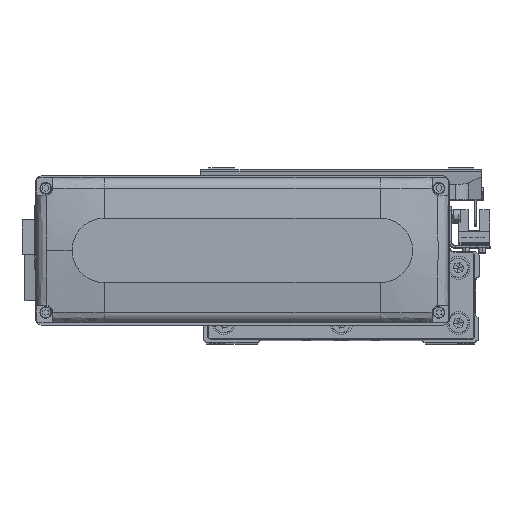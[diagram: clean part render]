
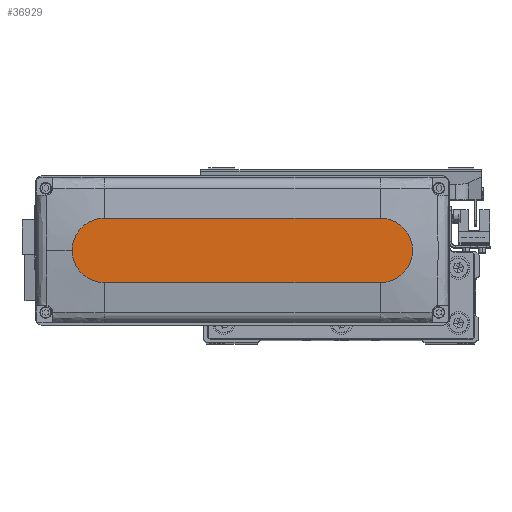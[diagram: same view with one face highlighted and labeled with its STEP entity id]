
A CAD part, top view. The second image highlights one B-rep face of the part: STEP entity #36929.
In plain terms, the highlighted planar face has unit normal (0, 0, 1).
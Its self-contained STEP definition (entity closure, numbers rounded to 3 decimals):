
#699 = LINE ( 'NONE', #13705, #32941 ) ;
#3783 = CARTESIAN_POINT ( 'NONE',  ( -60., -14., 28.5 ) ) ;
#5312 = CARTESIAN_POINT ( 'NONE',  ( -60., -14., 28.5 ) ) ;
#5567 = ORIENTED_EDGE ( 'NONE', *, *, #9362, .T. ) ;
#5639 = EDGE_CURVE ( 'NONE', #14345, #30469, #39063, .T. ) ;
#6544 = DIRECTION ( 'NONE',  ( 0., 0., 1. ) ) ;
#7034 = DIRECTION ( 'NONE',  ( 0., 0., 1. ) ) ;
#7301 = DIRECTION ( 'NONE',  ( 1., 0., 0. ) ) ;
#7545 = CARTESIAN_POINT ( 'NONE',  ( 60., -14., 28.5 ) ) ;
#8756 = ORIENTED_EDGE ( 'NONE', *, *, #5639, .T. ) ;
#9362 = EDGE_CURVE ( 'NONE', #23410, #15448, #35819, .T. ) ;
#9949 = VERTEX_POINT ( 'NONE', #7545 ) ;
#10127 = CARTESIAN_POINT ( 'NONE',  ( 60., 0., 28.5 ) ) ;
#10497 = PLANE ( 'NONE',  #40130 ) ;
#12079 = EDGE_CURVE ( 'NONE', #9949, #14345, #40546, .T. ) ;
#12794 = VECTOR ( 'NONE', #16802, 1000. ) ;
#13705 = CARTESIAN_POINT ( 'NONE',  ( -60., 14., 28.5 ) ) ;
#14345 = VERTEX_POINT ( 'NONE', #19390 ) ;
#15448 = VERTEX_POINT ( 'NONE', #5312 ) ;
#16802 = DIRECTION ( 'NONE',  ( 1., 0., 0. ) ) ;
#16963 = CARTESIAN_POINT ( 'NONE',  ( -60., 14., 28.5 ) ) ;
#17332 = AXIS2_PLACEMENT_3D ( 'NONE', #25992, #6544, #19575 ) ;
#18406 = EDGE_LOOP ( 'NONE', ( #27307, #5567, #25897, #21341, #8756 ) ) ;
#19390 = CARTESIAN_POINT ( 'NONE',  ( 74., 0., 28.5 ) ) ;
#19575 = DIRECTION ( 'NONE',  ( 1., 0., 0. ) ) ;
#20064 = DIRECTION ( 'NONE',  ( 1., 0., 0. ) ) ;
#20586 = AXIS2_PLACEMENT_3D ( 'NONE', #10127, #23162, #36236 ) ;
#21341 = ORIENTED_EDGE ( 'NONE', *, *, #12079, .T. ) ;
#22062 = AXIS2_PLACEMENT_3D ( 'NONE', #36352, #7034, #20064 ) ;
#23162 = DIRECTION ( 'NONE',  ( 0., 0., 1. ) ) ;
#23410 = VERTEX_POINT ( 'NONE', #16963 ) ;
#23544 = CARTESIAN_POINT ( 'NONE',  ( 0., 0., 28.5 ) ) ;
#25897 = ORIENTED_EDGE ( 'NONE', *, *, #37327, .T. ) ;
#25992 = CARTESIAN_POINT ( 'NONE',  ( -60., 0., 28.5 ) ) ;
#26767 = DIRECTION ( 'NONE',  ( -1., 0., 0. ) ) ;
#27307 = ORIENTED_EDGE ( 'NONE', *, *, #30035, .T. ) ;
#30035 = EDGE_CURVE ( 'NONE', #30469, #23410, #699, .T. ) ;
#30469 = VERTEX_POINT ( 'NONE', #36173 ) ;
#32941 = VECTOR ( 'NONE', #26767, 1000. ) ;
#33097 = LINE ( 'NONE', #3783, #12794 ) ;
#35819 = CIRCLE ( 'NONE', #17332, 14. ) ;
#36173 = CARTESIAN_POINT ( 'NONE',  ( 60., 14., 28.5 ) ) ;
#36236 = DIRECTION ( 'NONE',  ( 1., 0., 0. ) ) ;
#36352 = CARTESIAN_POINT ( 'NONE',  ( 60., 0., 28.5 ) ) ;
#36616 = DIRECTION ( 'NONE',  ( 0., 0., 1. ) ) ;
#36929 = ADVANCED_FACE ( 'NONE', ( #39835 ), #10497, .T. ) ;
#37327 = EDGE_CURVE ( 'NONE', #15448, #9949, #33097, .T. ) ;
#39063 = CIRCLE ( 'NONE', #20586, 14. ) ;
#39835 = FACE_OUTER_BOUND ( 'NONE', #18406, .T. ) ;
#40130 = AXIS2_PLACEMENT_3D ( 'NONE', #23544, #36616, #7301 ) ;
#40546 = CIRCLE ( 'NONE', #22062, 14. ) ;
